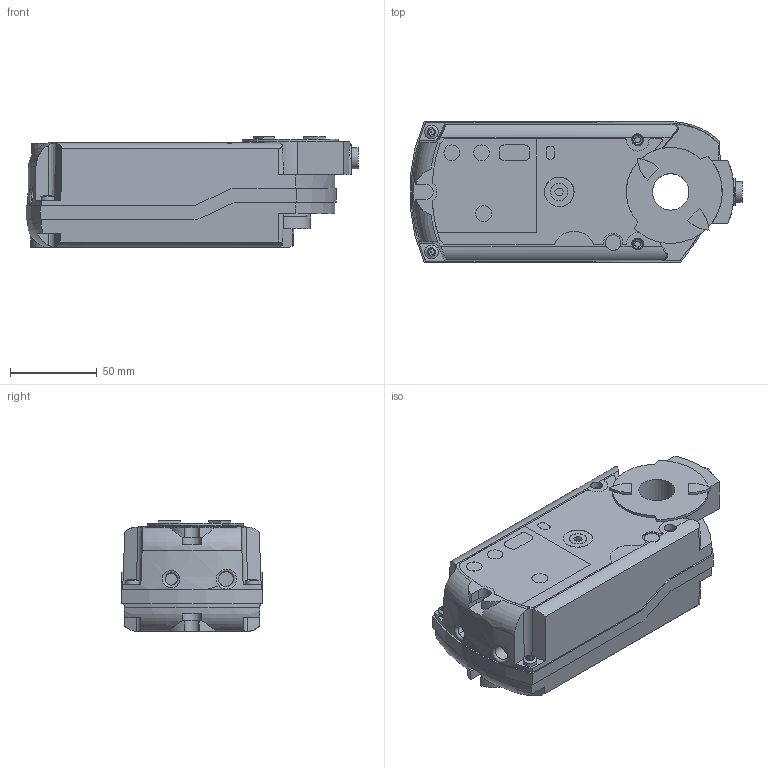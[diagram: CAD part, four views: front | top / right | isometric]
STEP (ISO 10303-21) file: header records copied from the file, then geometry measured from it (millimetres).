
FILE_DESCRIPTION(/* description */ (''),/* implementation_level */ '2;1');
FILE_NAME(/* name */ 'GMA..1E.stp',/* time_stamp */ '2014-09-15T14:59:10+02:00',/* author */ (''),/* organization */ (''),/* preprocessor_version */ 'ST-DEVELOPER v15',/* originating_system */ 'SIEMENS PLM Software NX 8.5',/* authorisation */ '');
FILE_SCHEMA (('AUTOMOTIVE_DESIGN { 1 0 10303 214 3 1 1 1 }'));
Length unit declared in the file: millimetre
Products named in the file (1): 8000077580_01
Bounding box: 190.95 x 81 x 63.75 mm (x, y, z)
Volume: 703016.6 mm3; surface area: 65272.8 mm2
Topology: 1 solids, 1 shells, 320 faces, 862 edges, 568 vertices
Faces by surface type: plane 149, cylinder 137, cone 26, torus 6, bspline 2
Full cylindrical faces by diameter (mm): 0.6 x2, 6.9 x1, 8 x2, 8.5 x1, 9 x6, 9.2 x2, 10 x2, 12 x1, 17 x2, 21 x1, 27 x1
Entity records: 12545 total; most frequent: CARTESIAN_POINT 2337, DIRECTION 1742, ORIENTED_EDGE 1588, EDGE_CURVE 794, AXIS2_PLACEMENT_3D 678, VERTEX_POINT 541, EDGE_LOOP 387, LINE 386
